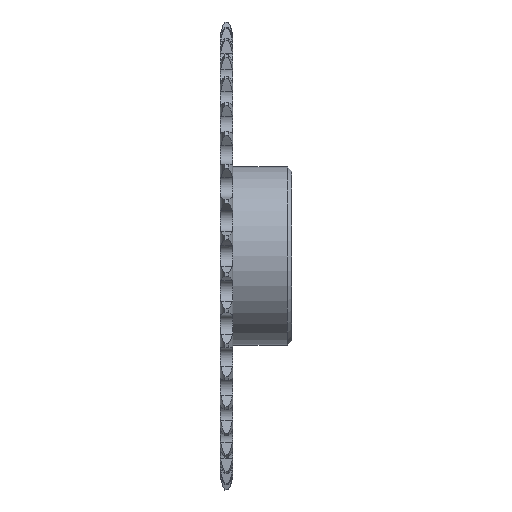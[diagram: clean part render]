
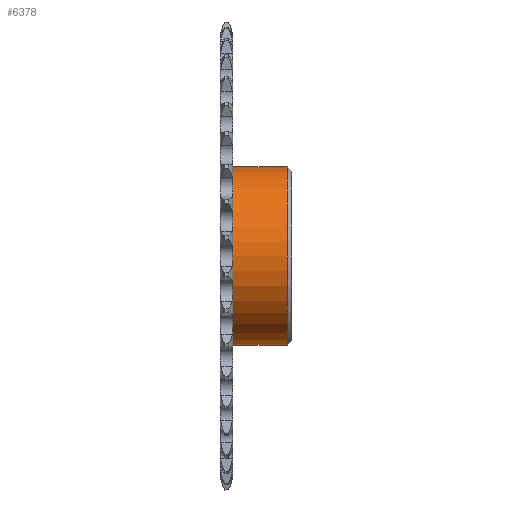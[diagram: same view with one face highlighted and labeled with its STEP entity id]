
A CAD part, front view. The second image highlights one B-rep face of the part: STEP entity #6378.
In plain terms, the highlighted cylindrical face has radius 20 mm (diameter 40 mm), a full revolution.
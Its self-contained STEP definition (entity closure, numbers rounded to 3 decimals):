
#626=CYLINDRICAL_SURFACE('',#7067,20.);
#969=LINE('',#12239,#1315);
#1315=VECTOR('',#8745,20.);
#1654=FACE_OUTER_BOUND('',#1999,.T.);
#1999=EDGE_LOOP('',(#5969,#5970,#5971,#5972));
#2331=CIRCLE('',#7066,20.);
#2332=CIRCLE('',#7068,20.);
#2994=VERTEX_POINT('',#12234);
#2995=VERTEX_POINT('',#12237);
#3986=EDGE_CURVE('',#2994,#2994,#2331,.T.);
#3987=EDGE_CURVE('',#2995,#2995,#2332,.T.);
#3988=EDGE_CURVE('',#2995,#2994,#969,.T.);
#5969=ORIENTED_EDGE('',*,*,#3987,.F.);
#5970=ORIENTED_EDGE('',*,*,#3988,.T.);
#5971=ORIENTED_EDGE('',*,*,#3986,.T.);
#5972=ORIENTED_EDGE('',*,*,#3988,.F.);
#6378=ADVANCED_FACE('',(#1654),#626,.T.);
#7066=AXIS2_PLACEMENT_3D('',#12235,#8739,#8740);
#7067=AXIS2_PLACEMENT_3D('',#12236,#8741,#8742);
#7068=AXIS2_PLACEMENT_3D('',#12238,#8743,#8744);
#8739=DIRECTION('center_axis',(1.,0.,0.));
#8740=DIRECTION('ref_axis',(0.,0.,-1.));
#8741=DIRECTION('center_axis',(1.,0.,0.));
#8742=DIRECTION('ref_axis',(0.,1.,0.));
#8743=DIRECTION('center_axis',(1.,0.,0.));
#8744=DIRECTION('ref_axis',(0.,0.,-1.));
#8745=DIRECTION('',(-1.,0.,0.));
#12234=CARTESIAN_POINT('',(2.8,-20.,0.));
#12235=CARTESIAN_POINT('Origin',(2.8,0.,0.));
#12236=CARTESIAN_POINT('Origin',(8.9,0.,0.));
#12237=CARTESIAN_POINT('',(15.,-20.,0.));
#12238=CARTESIAN_POINT('Origin',(15.,0.,0.));
#12239=CARTESIAN_POINT('',(8.9,-20.,0.));
